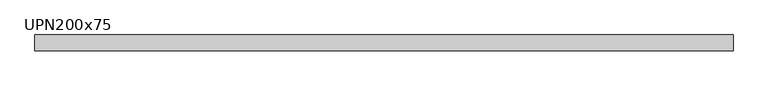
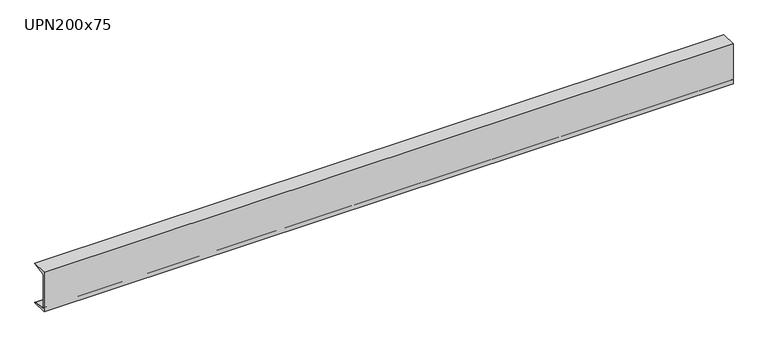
"""IFC4 building model written with IfcOpenShell, lengths in millimetres: beam geometry, M_MC Shapes : UPN200x75."""

from ifc_helpers import new_model, si_unit, point, frame, frame_2d, origin, place, context, project, spatial, polyline, circle_curve, trimmed, segment, composite_curve, outline, extrude, source, transform, mapped, element, save


def upn200x75_1f64faac(model_context):
    return source(origin(), model_context, "Body", "SweptSolid", [
        extrude(outline(composite_curve([segment(polyline([(-10.9, 100.0), (64.1, 100.0), (64.1, 99.0253247)]), True, "CONTINUOUS"), segment(trimmed(circle_curve(frame_2d((60.15, 99.0253247)), 3.95), [point((64.1, 99.0253247))], [point((60.7993773, 95.1290689))], False, "CARTESIAN"), True, "CONTINUOUS"), segment(polyline([(60.7993773, 95.1290689), (0.2512455, 85.0376935)]), True, "CONTINUOUS"), segment(trimmed(circle_curve(frame_2d((1.55, 77.2451819)), 7.9), [point((0.2512455, 85.0376935))], [point((-6.35, 77.2451819))], True, "CARTESIAN"), True, "CONTINUOUS"), segment(polyline([(-6.35, 77.2451819), (-6.35, -77.2451819)]), True, "CONTINUOUS"), segment(trimmed(circle_curve(frame_2d((1.55, -77.2451819)), 7.9), [point((-6.35, -77.2451819))], [point((0.2512455, -85.0376935))], True, "CARTESIAN"), True, "CONTINUOUS"), segment(polyline([(0.2512455, -85.0376935), (60.7993773, -95.1290689)]), True, "CONTINUOUS"), segment(trimmed(circle_curve(frame_2d((60.15, -99.0253247)), 3.95), [point((60.7993773, -95.1290689))], [point((64.1, -99.0253247))], False, "CARTESIAN"), True, "CONTINUOUS"), segment(polyline([(64.1, -99.0253247), (64.1, -100.0), (-10.9, -100.0), (-10.9, 100.0)]), True, "CONTINUOUS")], self_intersect=False)), frame((-1822.55, 0.0, 0.0), z_axis=(1.0, 0.0, 0.0), x_axis=(0.0, 1.0, 0.0)), (0.0, 0.0, 1.0), 3273.3),
    ])


if __name__ == "__main__":
    model = new_model("IFC4")
    model_context = context("Model", 3, world=origin())
    ifc_project = project(units=[si_unit("LENGTHUNIT", "METRE", prefix="MILLI")], contexts=[model_context])
    site = spatial("IfcSite", under=ifc_project)
    building = spatial("IfcBuilding", under=site)
    placement = place(None, origin())
    upn200x75_shape = upn200x75_1f64faac(model_context)
    element("IfcBeam", 1, ObjectType="M_MC Shapes : UPN200x75", at=placement, inside=building, context=model_context, shape_type="MappedRepresentation", body=[
        mapped(upn200x75_shape, transform((0.0, 0.0, 0.0), x_axis=(1.0, 0.0, 0.0), y_axis=(0.0, 1.0, 0.0), z_axis=(0.0, 0.0, 1.0))),
    ])
    save(model, "model.ifc")
